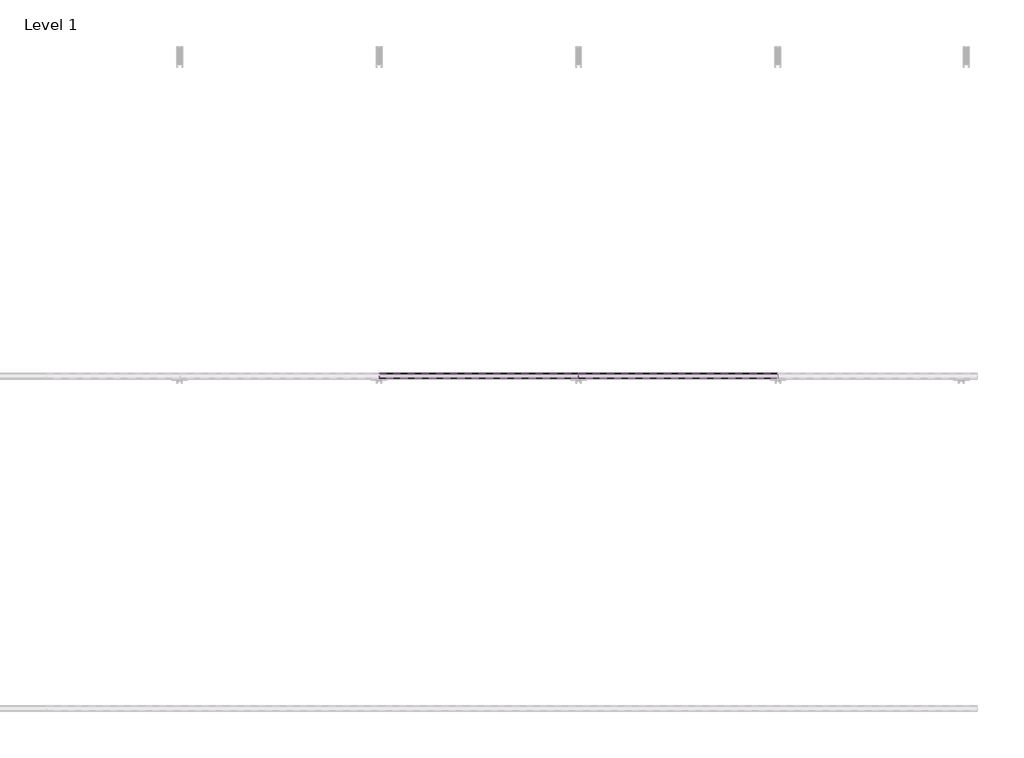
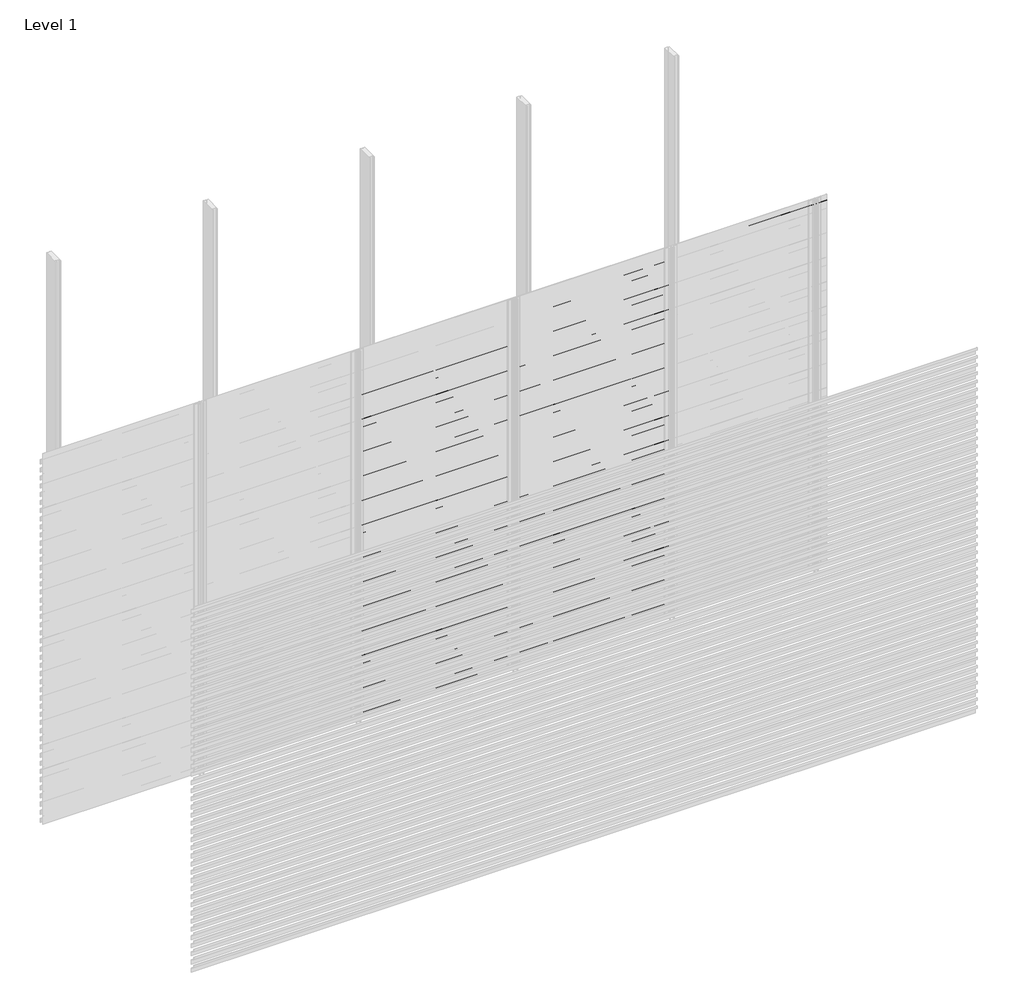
# One storey, part 5 of 33: 88 proxies.
"""IFC4 building model written with IfcOpenShell, lengths in millimetres."""

import ifcopenshell
import ifcopenshell.guid

model = None  # the IFC model being written
_history = None  # IfcOwnerHistory: only IFC2X3 demands one
_inside = {}  # id of a spatial element -> (the spatial element, [elements in it])
_under = {}  # id of a project, library or spatial element -> (it, [spatial elements below it])
_declared = {}  # id of a project -> (the project, [libraries it declares])
_typed = {}  # id of a type object -> (the type object, [elements of that type])
_made_of = {}  # id of a material, layer set ... -> (it, [elements and type objects made of it])


def new_model(schema):
    """Start an empty IFC model of exactly this schema.

    Asked for "IFC4X3", IfcOpenShell would pick the latest addendum, in which some entities
    have other attributes; the version numbers below select the first issue.
    IFC2X3 requires an IfcOwnerHistory on every rooted entity: one is made here for all.
    """
    global model, _history
    if schema == "IFC4X3":
        model = ifcopenshell.file(schema_version=(4, 3, 0, 0))
    else:
        model = ifcopenshell.file(schema=schema)
    _inside.clear()
    _under.clear()
    _declared.clear()
    _typed.clear()
    _made_of.clear()
    _history = None
    if model.schema == "IFC2X3":
        org = make("IfcOrganization", Name="unknown")
        user = make(
            "IfcPersonAndOrganization",
            ThePerson=make("IfcPerson", FamilyName="unknown"),
            TheOrganization=org,
        )
        app = make(
            "IfcApplication",
            ApplicationDeveloper=org,
            Version="unknown",
            ApplicationFullName="unknown",
            ApplicationIdentifier="unknown",
        )
        _history = make(
            "IfcOwnerHistory",
            OwningUser=user,
            OwningApplication=app,
            ChangeAction="ADDED",
            CreationDate=0,
        )
    return model


def make(cls, **values):
    """One entity of the class cls with the attributes given. An attribute that is None is left unset."""
    return model.create_entity(
        cls, **{name: value for name, value in values.items() if value is not None}
    )


def rooted(cls, **values):
    """An entity with a GlobalId (a new one), such as an element, a storey or a relation."""
    return make(cls, GlobalId=ifcopenshell.guid.new(), OwnerHistory=_history, **values)


def si_unit(unit_type, name, prefix=None):
    """IfcSIUnit, for example si_unit("LENGTHUNIT", "METRE", prefix="MILLI")."""
    return make("IfcSIUnit", UnitType=unit_type, Prefix=prefix, Name=name)


def assignment(units):
    """IfcUnitAssignment: the units of a project."""
    return None if units is None else make("IfcUnitAssignment", Units=units)


def point(xyz):
    """IfcCartesianPoint."""
    return None if xyz is None else make("IfcCartesianPoint", Coordinates=xyz)


def direction(xyz):
    """IfcDirection."""
    return None if xyz is None else make("IfcDirection", DirectionRatios=xyz)


def frame(location, z_axis=None, x_axis=None):
    """IfcAxis2Placement3D, a coordinate frame: its origin and axes. An axis left out is left unset."""
    return make(
        "IfcAxis2Placement3D",
        Location=point(location),
        Axis=direction(z_axis),
        RefDirection=direction(x_axis),
    )


def origin():
    """The frame at (0, 0, 0) with its axes left unset."""
    return frame((0.0, 0.0, 0.0))


def place(relative_to, where):
    """IfcLocalPlacement: puts the frame where relative to a parent placement (None: the world)."""
    return make(
        "IfcLocalPlacement", PlacementRelTo=relative_to, RelativePlacement=where
    )


def context(
    kind, dimensions, precision=None, world=None, true_north=None, identifier=None
):
    """IfcGeometricRepresentationContext, for example the 3D "Model" context."""
    return make(
        "IfcGeometricRepresentationContext",
        ContextIdentifier=identifier,
        ContextType=kind,
        CoordinateSpaceDimension=dimensions,
        Precision=precision,
        WorldCoordinateSystem=world,
        TrueNorth=true_north,
    )


def project(units=None, contexts=None):
    """IfcProject with its units and contexts."""
    return rooted(
        "IfcProject",
        Name="project",
        RepresentationContexts=contexts,
        UnitsInContext=assignment(units),
    )


def spatial(cls, under=None, at=None, **own):
    """A site, building, storey or space (cls), placed at a placement, below another one or the project."""
    s = rooted(cls, ObjectPlacement=at, **own)
    if under is not None:
        _under.setdefault(under.id(), (under, []))[1].append(s)
    return s


def polyline(points):
    """IfcPolyline through the points."""
    return make("IfcPolyline", Points=[point(p) for p in points])


def outline(outer, holes=None, kind="AREA"):
    """IfcArbitraryClosedProfileDef: a profile drawn as a closed curve; with holes, ...WithVoids."""
    if holes is None:
        return make("IfcArbitraryClosedProfileDef", ProfileType=kind, OuterCurve=outer)
    return make(
        "IfcArbitraryProfileDefWithVoids",
        ProfileType=kind,
        OuterCurve=outer,
        InnerCurves=holes,
    )


def extrude(swept, where, along, depth):
    """IfcExtrudedAreaSolid: the profile swept, set in the frame where, extruded along a direction by depth."""
    return make(
        "IfcExtrudedAreaSolid",
        SweptArea=swept,
        Position=where,
        ExtrudedDirection=direction(along),
        Depth=depth,
    )


def shape(context_of_items, identifier, shape_type, items):
    """IfcShapeRepresentation: the items that make up one representation, for example the "Body"."""
    return make(
        "IfcShapeRepresentation",
        ContextOfItems=context_of_items,
        RepresentationIdentifier=identifier,
        RepresentationType=shape_type,
        Items=items,
    )


def made_of(thing, what):
    """Note that an element or type object is made of a material, layer set ...; save() writes the relation."""
    if what is not None:
        _made_of.setdefault(what.id(), (what, []))[1].append(thing)
    return thing


def element(
    cls,
    number,
    at=None,
    inside=None,
    cuts=None,
    type_object=None,
    material=None,
    context=None,
    identifier="Body",
    shape_type=None,
    held_by="IfcProductDefinitionShape",
    body=None,
    shapes=None,
    **own,
):
    """One element of the class cls, such as IfcWall. Its Tag is "e" and its number.

    at: its placement. inside: the storey or other place that contains it. cuts: it is an
    opening in that element (IfcRelVoidsElement). A single representation is given by context,
    identifier, shape_type and body (its items); several are given by shapes. held_by: the class
    of the entity that holds the representations. save() writes the other relations.
    """
    e = rooted(cls, Tag="e%d" % number, ObjectPlacement=at, **own)
    if body is not None:
        shapes = [shape(context, identifier, shape_type, body)]
    if shapes is not None:
        e.Representation = make(held_by, Representations=shapes)
    if inside is not None:
        _inside.setdefault(inside.id(), (inside, []))[1].append(e)
    if cuts is not None:
        rooted(
            "IfcRelVoidsElement", RelatingBuildingElement=cuts, RelatedOpeningElement=e
        )
    if type_object is not None:
        _typed.setdefault(type_object.id(), (type_object, []))[1].append(e)
    return made_of(e, material)


def aggregate(whole, parts):
    """IfcRelAggregates: a whole, such as a stair, and the parts it consists of."""
    return rooted("IfcRelAggregates", RelatingObject=whole, RelatedObjects=parts)


def save(model, path):
    """Write the relations noted so far, then the file.

    IfcRelAggregates (storeys below a building ...), IfcRelContainedInSpatialStructure (elements
    in a storey), IfcRelDefinesByType, IfcRelAssociatesMaterial and IfcRelDeclares: one each for
    every whole, place, type object, material and project.
    """
    for whole, parts in _under.values():
        aggregate(whole, parts)
    for where, things in _inside.values():
        rooted(
            "IfcRelContainedInSpatialStructure",
            RelatedElements=things,
            RelatingStructure=where,
        )
    for kind, things in _typed.values():
        rooted("IfcRelDefinesByType", RelatedObjects=things, RelatingType=kind)
    for what, things in _made_of.values():
        rooted("IfcRelAssociatesMaterial", RelatedObjects=things, RelatingMaterial=what)
    for by, libraries in _declared.values():
        rooted("IfcRelDeclares", RelatingContext=by, RelatedDefinitions=libraries)
    model.write(path)


model = new_model("IFC4")

# Units and contexts
model_context = context("Model", 3, world=origin())
ifc_project = project(units=[si_unit("LENGTHUNIT", "METRE", prefix="MILLI")], contexts=[model_context])

# Site, building, storey
site = spatial("IfcSite", under=ifc_project)
building = spatial("IfcBuilding", under=site)
storey = spatial("IfcBuildingStorey", under=building, Name="Level 1", Elevation=0.0)

# Proxies
placement = place(None, origin())
element("IfcBuildingElementProxy", 1, Name="Wall Sweeps", at=placement, inside=storey, context=model_context, shape_type="SweptSolid", body=[
    extrude(outline(polyline([(-53967.0, 2732.0), (-53967.0, 2699.0), (-53968.25, 2699.7216933), (-53968.25, 2731.2872415), (-53998.0, 2752.0588647), (-53998.0, 2772.0), (-53996.75, 2772.0), (-53996.75, 2752.7716232), (-53967.0, 2732.0)])), frame((2400.0, 0.0, 0.0), z_axis=(1.0, 0.0, 0.0), x_axis=(0.0, 1.0, 0.0)), (0.0, 0.0, 1.0), 1200.0),
])
element("IfcBuildingElementProxy", 2, Name="Wall Sweeps", at=placement, inside=storey, context=model_context, shape_type="SweptSolid", body=[
    extrude(outline(polyline([(-53967.0, 2666.0), (-53967.0, 2633.0), (-53968.25, 2633.7216933), (-53968.25, 2665.2872415), (-53998.0, 2686.0588647), (-53998.0, 2706.0), (-53996.75, 2706.0), (-53996.75, 2686.7716232), (-53967.0, 2666.0)])), frame((2400.0, 0.0, 0.0), z_axis=(1.0, 0.0, 0.0), x_axis=(0.0, 1.0, 0.0)), (0.0, 0.0, 1.0), 1200.0),
])
element("IfcBuildingElementProxy", 3, Name="Wall Sweeps", at=placement, inside=storey, context=model_context, shape_type="SweptSolid", body=[
    extrude(outline(polyline([(-53967.0, 2600.0), (-53967.0, 2567.0), (-53968.25, 2567.7216933), (-53968.25, 2599.2872415), (-53998.0, 2620.0588647), (-53998.0, 2640.0), (-53996.75, 2640.0), (-53996.75, 2620.7716232), (-53967.0, 2600.0)])), frame((2400.0, 0.0, 0.0), z_axis=(1.0, 0.0, 0.0), x_axis=(0.0, 1.0, 0.0)), (0.0, 0.0, 1.0), 1200.0),
])
element("IfcBuildingElementProxy", 4, Name="Wall Sweeps", at=placement, inside=storey, context=model_context, shape_type="SweptSolid", body=[
    extrude(outline(polyline([(-53967.0, 2534.0), (-53967.0, 2501.0), (-53968.25, 2501.7216933), (-53968.25, 2533.2872415), (-53998.0, 2554.0588647), (-53998.0, 2574.0), (-53996.75, 2574.0), (-53996.75, 2554.7716232), (-53967.0, 2534.0)])), frame((2400.0, 0.0, 0.0), z_axis=(1.0, 0.0, 0.0), x_axis=(0.0, 1.0, 0.0)), (0.0, 0.0, 1.0), 1200.0),
])
element("IfcBuildingElementProxy", 5, Name="Wall Sweeps", at=placement, inside=storey, context=model_context, shape_type="SweptSolid", body=[
    extrude(outline(polyline([(-53967.0, 2468.0), (-53967.0, 2435.0), (-53968.25, 2435.7216933), (-53968.25, 2467.2872415), (-53998.0, 2488.0588647), (-53998.0, 2508.0), (-53996.75, 2508.0), (-53996.75, 2488.7716232), (-53967.0, 2468.0)])), frame((2400.0, 0.0, 0.0), z_axis=(1.0, 0.0, 0.0), x_axis=(0.0, 1.0, 0.0)), (0.0, 0.0, 1.0), 1200.0),
])
element("IfcBuildingElementProxy", 6, Name="Wall Sweeps", at=placement, inside=storey, context=model_context, shape_type="SweptSolid", body=[
    extrude(outline(polyline([(-53967.0, 2402.0), (-53967.0, 2369.0), (-53968.25, 2369.7216933), (-53968.25, 2401.2872415), (-53998.0, 2422.0588647), (-53998.0, 2442.0), (-53996.75, 2442.0), (-53996.75, 2422.7716232), (-53967.0, 2402.0)])), frame((2400.0, 0.0, 0.0), z_axis=(1.0, 0.0, 0.0), x_axis=(0.0, 1.0, 0.0)), (0.0, 0.0, 1.0), 1200.0),
])
element("IfcBuildingElementProxy", 7, Name="Wall Sweeps", at=placement, inside=storey, context=model_context, shape_type="SweptSolid", body=[
    extrude(outline(polyline([(-53967.0, 2336.0), (-53967.0, 2303.0), (-53968.25, 2303.7216933), (-53968.25, 2335.2872415), (-53998.0, 2356.0588647), (-53998.0, 2376.0), (-53996.75, 2376.0), (-53996.75, 2356.7716232), (-53967.0, 2336.0)])), frame((2400.0, 0.0, 0.0), z_axis=(1.0, 0.0, 0.0), x_axis=(0.0, 1.0, 0.0)), (0.0, 0.0, 1.0), 1200.0),
])
element("IfcBuildingElementProxy", 8, Name="Wall Sweeps", at=placement, inside=storey, context=model_context, shape_type="SweptSolid", body=[
    extrude(outline(polyline([(-53967.0, 2270.0), (-53967.0, 2237.0), (-53968.25, 2237.7216933), (-53968.25, 2269.2872415), (-53998.0, 2290.0588647), (-53998.0, 2310.0), (-53996.75, 2310.0), (-53996.75, 2290.7716232), (-53967.0, 2270.0)])), frame((2400.0, 0.0, 0.0), z_axis=(1.0, 0.0, 0.0), x_axis=(0.0, 1.0, 0.0)), (0.0, 0.0, 1.0), 1200.0),
])
element("IfcBuildingElementProxy", 9, Name="Wall Sweeps", at=placement, inside=storey, context=model_context, shape_type="SweptSolid", body=[
    extrude(outline(polyline([(-53967.0, 2204.0), (-53967.0, 2171.0), (-53968.25, 2171.7216933), (-53968.25, 2203.2872415), (-53998.0, 2224.0588647), (-53998.0, 2244.0), (-53996.75, 2244.0), (-53996.75, 2224.7716232), (-53967.0, 2204.0)])), frame((2400.0, 0.0, 0.0), z_axis=(1.0, 0.0, 0.0), x_axis=(0.0, 1.0, 0.0)), (0.0, 0.0, 1.0), 1200.0),
])
element("IfcBuildingElementProxy", 10, Name="Wall Sweeps", at=placement, inside=storey, context=model_context, shape_type="SweptSolid", body=[
    extrude(outline(polyline([(-53967.0, 2138.0), (-53967.0, 2105.0), (-53968.25, 2105.7216933), (-53968.25, 2137.2872415), (-53998.0, 2158.0588647), (-53998.0, 2178.0), (-53996.75, 2178.0), (-53996.75, 2158.7716232), (-53967.0, 2138.0)])), frame((2400.0, 0.0, 0.0), z_axis=(1.0, 0.0, 0.0), x_axis=(0.0, 1.0, 0.0)), (0.0, 0.0, 1.0), 1200.0),
])
element("IfcBuildingElementProxy", 11, Name="Wall Sweeps", at=placement, inside=storey, context=model_context, shape_type="SweptSolid", body=[
    extrude(outline(polyline([(-53967.0, 2072.0), (-53967.0, 2039.0), (-53968.25, 2039.7216933), (-53968.25, 2071.2872415), (-53998.0, 2092.0588647), (-53998.0, 2112.0), (-53996.75, 2112.0), (-53996.75, 2092.7716232), (-53967.0, 2072.0)])), frame((2400.0, 0.0, 0.0), z_axis=(1.0, 0.0, 0.0), x_axis=(0.0, 1.0, 0.0)), (0.0, 0.0, 1.0), 1200.0),
])
element("IfcBuildingElementProxy", 12, Name="Wall Sweeps", at=placement, inside=storey, context=model_context, shape_type="SweptSolid", body=[
    extrude(outline(polyline([(-53967.0, 2006.0), (-53967.0, 1973.0), (-53968.25, 1973.7216933), (-53968.25, 2005.2872415), (-53998.0, 2026.0588647), (-53998.0, 2046.0), (-53996.75, 2046.0), (-53996.75, 2026.7716232), (-53967.0, 2006.0)])), frame((2400.0, 0.0, 0.0), z_axis=(1.0, 0.0, 0.0), x_axis=(0.0, 1.0, 0.0)), (0.0, 0.0, 1.0), 1200.0),
])
element("IfcBuildingElementProxy", 13, Name="Wall Sweeps", at=placement, inside=storey, context=model_context, shape_type="SweptSolid", body=[
    extrude(outline(polyline([(-53967.0, 1940.0), (-53967.0, 1907.0), (-53968.25, 1907.7216933), (-53968.25, 1939.2872415), (-53998.0, 1960.0588647), (-53998.0, 1980.0), (-53996.75, 1980.0), (-53996.75, 1960.7716232), (-53967.0, 1940.0)])), frame((2400.0, 0.0, 0.0), z_axis=(1.0, 0.0, 0.0), x_axis=(0.0, 1.0, 0.0)), (0.0, 0.0, 1.0), 1200.0),
])
element("IfcBuildingElementProxy", 14, Name="Wall Sweeps", at=placement, inside=storey, context=model_context, shape_type="SweptSolid", body=[
    extrude(outline(polyline([(-53967.0, 1874.0), (-53967.0, 1841.0), (-53968.25, 1841.7216933), (-53968.25, 1873.2872415), (-53998.0, 1894.0588647), (-53998.0, 1914.0), (-53996.75, 1914.0), (-53996.75, 1894.7716232), (-53967.0, 1874.0)])), frame((2400.0, 0.0, 0.0), z_axis=(1.0, 0.0, 0.0), x_axis=(0.0, 1.0, 0.0)), (0.0, 0.0, 1.0), 1200.0),
])
element("IfcBuildingElementProxy", 15, Name="Wall Sweeps", at=placement, inside=storey, context=model_context, shape_type="SweptSolid", body=[
    extrude(outline(polyline([(-53967.0, 1808.0), (-53967.0, 1775.0), (-53968.25, 1775.7216933), (-53968.25, 1807.2872415), (-53998.0, 1828.0588647), (-53998.0, 1848.0), (-53996.75, 1848.0), (-53996.75, 1828.7716232), (-53967.0, 1808.0)])), frame((2400.0, 0.0, 0.0), z_axis=(1.0, 0.0, 0.0), x_axis=(0.0, 1.0, 0.0)), (0.0, 0.0, 1.0), 1200.0),
])
element("IfcBuildingElementProxy", 16, Name="Wall Sweeps", at=placement, inside=storey, context=model_context, shape_type="SweptSolid", body=[
    extrude(outline(polyline([(-53967.0, 1742.0), (-53967.0, 1709.0), (-53968.25, 1709.7216933), (-53968.25, 1741.2872415), (-53998.0, 1762.0588647), (-53998.0, 1782.0), (-53996.75, 1782.0), (-53996.75, 1762.7716232), (-53967.0, 1742.0)])), frame((2400.0, 0.0, 0.0), z_axis=(1.0, 0.0, 0.0), x_axis=(0.0, 1.0, 0.0)), (0.0, 0.0, 1.0), 1200.0),
])
element("IfcBuildingElementProxy", 17, Name="Wall Sweeps", at=placement, inside=storey, context=model_context, shape_type="SweptSolid", body=[
    extrude(outline(polyline([(-53967.0, 1676.0), (-53967.0, 1643.0), (-53968.25, 1643.7216933), (-53968.25, 1675.2872415), (-53998.0, 1696.0588647), (-53998.0, 1716.0), (-53996.75, 1716.0), (-53996.75, 1696.7716232), (-53967.0, 1676.0)])), frame((2400.0, 0.0, 0.0), z_axis=(1.0, 0.0, 0.0), x_axis=(0.0, 1.0, 0.0)), (0.0, 0.0, 1.0), 1200.0),
])
element("IfcBuildingElementProxy", 18, Name="Wall Sweeps", at=placement, inside=storey, context=model_context, shape_type="SweptSolid", body=[
    extrude(outline(polyline([(-53967.0, 1610.0), (-53967.0, 1577.0), (-53968.25, 1577.7216933), (-53968.25, 1609.2872415), (-53998.0, 1630.0588647), (-53998.0, 1650.0), (-53996.75, 1650.0), (-53996.75, 1630.7716232), (-53967.0, 1610.0)])), frame((2400.0, 0.0, 0.0), z_axis=(1.0, 0.0, 0.0), x_axis=(0.0, 1.0, 0.0)), (0.0, 0.0, 1.0), 1200.0),
])
element("IfcBuildingElementProxy", 19, Name="Wall Sweeps", at=placement, inside=storey, context=model_context, shape_type="SweptSolid", body=[
    extrude(outline(polyline([(-53967.0, 1544.0), (-53967.0, 1511.0), (-53968.25, 1511.7216933), (-53968.25, 1543.2872415), (-53998.0, 1564.0588647), (-53998.0, 1584.0), (-53996.75, 1584.0), (-53996.75, 1564.7716232), (-53967.0, 1544.0)])), frame((2400.0, 0.0, 0.0), z_axis=(1.0, 0.0, 0.0), x_axis=(0.0, 1.0, 0.0)), (0.0, 0.0, 1.0), 1200.0),
])
element("IfcBuildingElementProxy", 20, Name="Wall Sweeps", at=placement, inside=storey, context=model_context, shape_type="SweptSolid", body=[
    extrude(outline(polyline([(-53967.0, 1478.0), (-53967.0, 1445.0), (-53968.25, 1445.7216933), (-53968.25, 1477.2872415), (-53998.0, 1498.0588647), (-53998.0, 1518.0), (-53996.75, 1518.0), (-53996.75, 1498.7716232), (-53967.0, 1478.0)])), frame((2400.0, 0.0, 0.0), z_axis=(1.0, 0.0, 0.0), x_axis=(0.0, 1.0, 0.0)), (0.0, 0.0, 1.0), 1200.0),
])
element("IfcBuildingElementProxy", 21, Name="Wall Sweeps", at=placement, inside=storey, context=model_context, shape_type="SweptSolid", body=[
    extrude(outline(polyline([(-53967.0, 1412.0), (-53967.0, 1379.0), (-53968.25, 1379.7216933), (-53968.25, 1411.2872415), (-53998.0, 1432.0588647), (-53998.0, 1452.0), (-53996.75, 1452.0), (-53996.75, 1432.7716232), (-53967.0, 1412.0)])), frame((2400.0, 0.0, 0.0), z_axis=(1.0, 0.0, 0.0), x_axis=(0.0, 1.0, 0.0)), (0.0, 0.0, 1.0), 1200.0),
])
element("IfcBuildingElementProxy", 22, Name="Wall Sweeps", at=placement, inside=storey, context=model_context, shape_type="SweptSolid", body=[
    extrude(outline(polyline([(-53967.0, 1346.0), (-53967.0, 1313.0), (-53968.25, 1313.7216933), (-53968.25, 1345.2872415), (-53998.0, 1366.0588647), (-53998.0, 1386.0), (-53996.75, 1386.0), (-53996.75, 1366.7716232), (-53967.0, 1346.0)])), frame((2400.0, 0.0, 0.0), z_axis=(1.0, 0.0, 0.0), x_axis=(0.0, 1.0, 0.0)), (0.0, 0.0, 1.0), 1200.0),
])
element("IfcBuildingElementProxy", 23, Name="Wall Sweeps", at=placement, inside=storey, context=model_context, shape_type="SweptSolid", body=[
    extrude(outline(polyline([(-53967.0, 1280.0), (-53967.0, 1247.0), (-53968.25, 1247.7216933), (-53968.25, 1279.2872415), (-53998.0, 1300.0588647), (-53998.0, 1320.0), (-53996.75, 1320.0), (-53996.75, 1300.7716232), (-53967.0, 1280.0)])), frame((2400.0, 0.0, 0.0), z_axis=(1.0, 0.0, 0.0), x_axis=(0.0, 1.0, 0.0)), (0.0, 0.0, 1.0), 1200.0),
])
element("IfcBuildingElementProxy", 24, Name="Wall Sweeps", at=placement, inside=storey, context=model_context, shape_type="SweptSolid", body=[
    extrude(outline(polyline([(-53967.0, 1214.0), (-53967.0, 1181.0), (-53968.25, 1181.7216933), (-53968.25, 1213.2872415), (-53998.0, 1234.0588647), (-53998.0, 1254.0), (-53996.75, 1254.0), (-53996.75, 1234.7716232), (-53967.0, 1214.0)])), frame((2400.0, 0.0, 0.0), z_axis=(1.0, 0.0, 0.0), x_axis=(0.0, 1.0, 0.0)), (0.0, 0.0, 1.0), 1200.0),
])
element("IfcBuildingElementProxy", 25, Name="Wall Sweeps", at=placement, inside=storey, context=model_context, shape_type="SweptSolid", body=[
    extrude(outline(polyline([(-53967.0, 1148.0), (-53967.0, 1115.0), (-53968.25, 1115.7216933), (-53968.25, 1147.2872415), (-53998.0, 1168.0588647), (-53998.0, 1188.0), (-53996.75, 1188.0), (-53996.75, 1168.7716232), (-53967.0, 1148.0)])), frame((2400.0, 0.0, 0.0), z_axis=(1.0, 0.0, 0.0), x_axis=(0.0, 1.0, 0.0)), (0.0, 0.0, 1.0), 1200.0),
])
element("IfcBuildingElementProxy", 26, Name="Wall Sweeps", at=placement, inside=storey, context=model_context, shape_type="SweptSolid", body=[
    extrude(outline(polyline([(-53967.0, 1082.0), (-53967.0, 1049.0), (-53968.25, 1049.7216933), (-53968.25, 1081.2872415), (-53998.0, 1102.0588647), (-53998.0, 1122.0), (-53996.75, 1122.0), (-53996.75, 1102.7716232), (-53967.0, 1082.0)])), frame((2400.0, 0.0, 0.0), z_axis=(1.0, 0.0, 0.0), x_axis=(0.0, 1.0, 0.0)), (0.0, 0.0, 1.0), 1200.0),
])
element("IfcBuildingElementProxy", 27, Name="Wall Sweeps", at=placement, inside=storey, context=model_context, shape_type="SweptSolid", body=[
    extrude(outline(polyline([(-53967.0, 1016.0), (-53967.0, 983.0), (-53968.25, 983.7216933), (-53968.25, 1015.2872415), (-53998.0, 1036.0588647), (-53998.0, 1056.0), (-53996.75, 1056.0), (-53996.75, 1036.7716232), (-53967.0, 1016.0)])), frame((2400.0, 0.0, 0.0), z_axis=(1.0, 0.0, 0.0), x_axis=(0.0, 1.0, 0.0)), (0.0, 0.0, 1.0), 1200.0),
])
element("IfcBuildingElementProxy", 28, Name="Wall Sweeps", at=placement, inside=storey, context=model_context, shape_type="SweptSolid", body=[
    extrude(outline(polyline([(-53967.0, 950.0), (-53967.0, 917.0), (-53968.25, 917.7216933), (-53968.25, 949.2872415), (-53998.0, 970.0588647), (-53998.0, 990.0), (-53996.75, 990.0), (-53996.75, 970.7716232), (-53967.0, 950.0)])), frame((2400.0, 0.0, 0.0), z_axis=(1.0, 0.0, 0.0), x_axis=(0.0, 1.0, 0.0)), (0.0, 0.0, 1.0), 1200.0),
])
element("IfcBuildingElementProxy", 29, Name="Wall Sweeps", at=placement, inside=storey, context=model_context, shape_type="SweptSolid", body=[
    extrude(outline(polyline([(-53967.0, 884.0), (-53967.0, 851.0), (-53968.25, 851.7216933), (-53968.25, 883.2872415), (-53998.0, 904.0588647), (-53998.0, 924.0), (-53996.75, 924.0), (-53996.75, 904.7716232), (-53967.0, 884.0)])), frame((2400.0, 0.0, 0.0), z_axis=(1.0, 0.0, 0.0), x_axis=(0.0, 1.0, 0.0)), (0.0, 0.0, 1.0), 1200.0),
])
element("IfcBuildingElementProxy", 30, Name="Wall Sweeps", at=placement, inside=storey, context=model_context, shape_type="SweptSolid", body=[
    extrude(outline(polyline([(-53967.0, 818.0), (-53967.0, 785.0), (-53968.25, 785.7216933), (-53968.25, 817.2872415), (-53998.0, 838.0588647), (-53998.0, 858.0), (-53996.75, 858.0), (-53996.75, 838.7716232), (-53967.0, 818.0)])), frame((2400.0, 0.0, 0.0), z_axis=(1.0, 0.0, 0.0), x_axis=(0.0, 1.0, 0.0)), (0.0, 0.0, 1.0), 1200.0),
])
element("IfcBuildingElementProxy", 31, Name="Wall Sweeps", at=placement, inside=storey, context=model_context, shape_type="SweptSolid", body=[
    extrude(outline(polyline([(-53967.0, 752.0), (-53967.0, 719.0), (-53968.25, 719.7216933), (-53968.25, 751.2872415), (-53998.0, 772.0588647), (-53998.0, 792.0), (-53996.75, 792.0), (-53996.75, 772.7716232), (-53967.0, 752.0)])), frame((2400.0, 0.0, 0.0), z_axis=(1.0, 0.0, 0.0), x_axis=(0.0, 1.0, 0.0)), (0.0, 0.0, 1.0), 1200.0),
])
element("IfcBuildingElementProxy", 32, Name="Wall Sweeps", at=placement, inside=storey, context=model_context, shape_type="SweptSolid", body=[
    extrude(outline(polyline([(-53967.0, 686.0), (-53967.0, 653.0), (-53968.25, 653.7216933), (-53968.25, 685.2872415), (-53998.0, 706.0588647), (-53998.0, 726.0), (-53996.75, 726.0), (-53996.75, 706.7716232), (-53967.0, 686.0)])), frame((2400.0, 0.0, 0.0), z_axis=(1.0, 0.0, 0.0), x_axis=(0.0, 1.0, 0.0)), (0.0, 0.0, 1.0), 1200.0),
])
element("IfcBuildingElementProxy", 33, Name="Wall Sweeps", at=placement, inside=storey, context=model_context, shape_type="SweptSolid", body=[
    extrude(outline(polyline([(-53967.0, 620.0), (-53967.0, 587.0), (-53968.25, 587.7216933), (-53968.25, 619.2872415), (-53998.0, 640.0588647), (-53998.0, 660.0), (-53996.75, 660.0), (-53996.75, 640.7716232), (-53967.0, 620.0)])), frame((2400.0, 0.0, 0.0), z_axis=(1.0, 0.0, 0.0), x_axis=(0.0, 1.0, 0.0)), (0.0, 0.0, 1.0), 1200.0),
])
element("IfcBuildingElementProxy", 34, Name="Wall Sweeps", at=placement, inside=storey, context=model_context, shape_type="SweptSolid", body=[
    extrude(outline(polyline([(-53967.0, 554.0), (-53967.0, 521.0), (-53968.25, 521.7216933), (-53968.25, 553.2872415), (-53998.0, 574.0588647), (-53998.0, 594.0), (-53996.75, 594.0), (-53996.75, 574.7716232), (-53967.0, 554.0)])), frame((2400.0, 0.0, 0.0), z_axis=(1.0, 0.0, 0.0), x_axis=(0.0, 1.0, 0.0)), (0.0, 0.0, 1.0), 1200.0),
])
element("IfcBuildingElementProxy", 35, Name="Wall Sweeps", at=placement, inside=storey, context=model_context, shape_type="SweptSolid", body=[
    extrude(outline(polyline([(-53967.0, 488.0), (-53967.0, 455.0), (-53968.25, 455.7216933), (-53968.25, 487.2872415), (-53998.0, 508.0588647), (-53998.0, 528.0), (-53996.75, 528.0), (-53996.75, 508.7716232), (-53967.0, 488.0)])), frame((2400.0, 0.0, 0.0), z_axis=(1.0, 0.0, 0.0), x_axis=(0.0, 1.0, 0.0)), (0.0, 0.0, 1.0), 1200.0),
])
element("IfcBuildingElementProxy", 36, Name="Wall Sweeps", at=placement, inside=storey, context=model_context, shape_type="SweptSolid", body=[
    extrude(outline(polyline([(-53967.0, 422.0), (-53967.0, 389.0), (-53968.25, 389.7216933), (-53968.25, 421.2872415), (-53998.0, 442.0588647), (-53998.0, 462.0), (-53996.75, 462.0), (-53996.75, 442.7716232), (-53967.0, 422.0)])), frame((2400.0, 0.0, 0.0), z_axis=(1.0, 0.0, 0.0), x_axis=(0.0, 1.0, 0.0)), (0.0, 0.0, 1.0), 1200.0),
])
element("IfcBuildingElementProxy", 37, Name="Wall Sweeps", at=placement, inside=storey, context=model_context, shape_type="SweptSolid", body=[
    extrude(outline(polyline([(-53967.0, 356.0), (-53967.0, 323.0), (-53968.25, 323.7216933), (-53968.25, 355.2872415), (-53998.0, 376.0588647), (-53998.0, 396.0), (-53996.75, 396.0), (-53996.75, 376.7716232), (-53967.0, 356.0)])), frame((2400.0, 0.0, 0.0), z_axis=(1.0, 0.0, 0.0), x_axis=(0.0, 1.0, 0.0)), (0.0, 0.0, 1.0), 1200.0),
])
element("IfcBuildingElementProxy", 38, Name="Wall Sweeps", at=placement, inside=storey, context=model_context, shape_type="SweptSolid", body=[
    extrude(outline(polyline([(-53967.0, 290.0), (-53967.0, 257.0), (-53968.25, 257.7216933), (-53968.25, 289.2872415), (-53998.0, 310.0588647), (-53998.0, 330.0), (-53996.75, 330.0), (-53996.75, 310.7716232), (-53967.0, 290.0)])), frame((2400.0, 0.0, 0.0), z_axis=(1.0, 0.0, 0.0), x_axis=(0.0, 1.0, 0.0)), (0.0, 0.0, 1.0), 1200.0),
])
element("IfcBuildingElementProxy", 39, Name="Wall Sweeps", at=placement, inside=storey, context=model_context, shape_type="SweptSolid", body=[
    extrude(outline(polyline([(-53967.0, 224.0), (-53967.0, 191.0), (-53968.25, 191.7216933), (-53968.25, 223.2872415), (-53998.0, 244.0588647), (-53998.0, 264.0), (-53996.75, 264.0), (-53996.75, 244.7716232), (-53967.0, 224.0)])), frame((2400.0, 0.0, 0.0), z_axis=(1.0, 0.0, 0.0), x_axis=(0.0, 1.0, 0.0)), (0.0, 0.0, 1.0), 1200.0),
])
element("IfcBuildingElementProxy", 40, Name="Wall Sweeps", at=placement, inside=storey, context=model_context, shape_type="SweptSolid", body=[
    extrude(outline(polyline([(-53967.0, 158.0), (-53967.0, 125.0), (-53968.25, 125.7216933), (-53968.25, 157.2872415), (-53998.0, 178.0588647), (-53998.0, 198.0), (-53996.75, 198.0), (-53996.75, 178.7716232), (-53967.0, 158.0)])), frame((2400.0, 0.0, 0.0), z_axis=(1.0, 0.0, 0.0), x_axis=(0.0, 1.0, 0.0)), (0.0, 0.0, 1.0), 1200.0),
])
element("IfcBuildingElementProxy", 41, Name="Wall Sweeps", at=placement, inside=storey, context=model_context, shape_type="SweptSolid", body=[
    extrude(outline(polyline([(-53967.0, 92.0), (-53967.0, 59.0), (-53968.25, 59.7216933), (-53968.25, 91.2872415), (-53998.0, 112.0588647), (-53998.0, 132.0), (-53996.75, 132.0), (-53996.75, 112.7716232), (-53967.0, 92.0)])), frame((2400.0, 0.0, 0.0), z_axis=(1.0, 0.0, 0.0), x_axis=(0.0, 1.0, 0.0)), (0.0, 0.0, 1.0), 1200.0),
])
element("IfcBuildingElementProxy", 42, Name="Wall Sweeps", at=placement, inside=storey, context=model_context, shape_type="SweptSolid", body=[
    extrude(outline(polyline([(-53967.0, 26.0), (-53967.0, -7.0), (-53968.25, -6.2783067), (-53968.25, 25.2872415), (-53998.0, 46.0588647), (-53998.0, 66.0), (-53996.75, 66.0), (-53996.75, 46.7716232), (-53967.0, 26.0)])), frame((2400.0, 0.0, 0.0), z_axis=(1.0, 0.0, 0.0), x_axis=(0.0, 1.0, 0.0)), (0.0, 0.0, 1.0), 1200.0),
])
element("IfcBuildingElementProxy", 43, Name="Wall Sweeps", at=placement, inside=storey, context=model_context, shape_type="SweptSolid", body=[
    extrude(outline(polyline([(-53967.0, 2930.0), (-53967.0, 2897.0), (-53968.25, 2897.7216933), (-53968.25, 2929.2872415), (-53998.0, 2950.0588647), (-53998.0, 2970.0), (-53996.75, 2970.0), (-53996.75, 2950.7716232), (-53967.0, 2930.0)])), frame((3600.0, 0.0, 0.0), z_axis=(1.0, 0.0, 0.0), x_axis=(0.0, 1.0, 0.0)), (0.0, 0.0, 1.0), 1200.0),
])
element("IfcBuildingElementProxy", 44, Name="Wall Sweeps", at=placement, inside=storey, context=model_context, shape_type="SweptSolid", body=[
    extrude(outline(polyline([(-53967.0, 2864.0), (-53967.0, 2831.0), (-53968.25, 2831.7216933), (-53968.25, 2863.2872415), (-53998.0, 2884.0588647), (-53998.0, 2904.0), (-53996.75, 2904.0), (-53996.75, 2884.7716232), (-53967.0, 2864.0)])), frame((3600.0, 0.0, 0.0), z_axis=(1.0, 0.0, 0.0), x_axis=(0.0, 1.0, 0.0)), (0.0, 0.0, 1.0), 1200.0),
])
element("IfcBuildingElementProxy", 45, Name="Wall Sweeps", at=placement, inside=storey, context=model_context, shape_type="SweptSolid", body=[
    extrude(outline(polyline([(-53967.0, 2798.0), (-53967.0, 2765.0), (-53968.25, 2765.7216933), (-53968.25, 2797.2872415), (-53998.0, 2818.0588647), (-53998.0, 2838.0), (-53996.75, 2838.0), (-53996.75, 2818.7716232), (-53967.0, 2798.0)])), frame((3600.0, 0.0, 0.0), z_axis=(1.0, 0.0, 0.0), x_axis=(0.0, 1.0, 0.0)), (0.0, 0.0, 1.0), 1200.0),
])
element("IfcBuildingElementProxy", 46, Name="Wall Sweeps", at=placement, inside=storey, context=model_context, shape_type="SweptSolid", body=[
    extrude(outline(polyline([(-53967.0, 2732.0), (-53967.0, 2699.0), (-53968.25, 2699.7216933), (-53968.25, 2731.2872415), (-53998.0, 2752.0588647), (-53998.0, 2772.0), (-53996.75, 2772.0), (-53996.75, 2752.7716232), (-53967.0, 2732.0)])), frame((3600.0, 0.0, 0.0), z_axis=(1.0, 0.0, 0.0), x_axis=(0.0, 1.0, 0.0)), (0.0, 0.0, 1.0), 1200.0),
])
element("IfcBuildingElementProxy", 47, Name="Wall Sweeps", at=placement, inside=storey, context=model_context, shape_type="SweptSolid", body=[
    extrude(outline(polyline([(-53967.0, 2666.0), (-53967.0, 2633.0), (-53968.25, 2633.7216933), (-53968.25, 2665.2872415), (-53998.0, 2686.0588647), (-53998.0, 2706.0), (-53996.75, 2706.0), (-53996.75, 2686.7716232), (-53967.0, 2666.0)])), frame((3600.0, 0.0, 0.0), z_axis=(1.0, 0.0, 0.0), x_axis=(0.0, 1.0, 0.0)), (0.0, 0.0, 1.0), 1200.0),
])
element("IfcBuildingElementProxy", 48, Name="Wall Sweeps", at=placement, inside=storey, context=model_context, shape_type="SweptSolid", body=[
    extrude(outline(polyline([(-53967.0, 2600.0), (-53967.0, 2567.0), (-53968.25, 2567.7216933), (-53968.25, 2599.2872415), (-53998.0, 2620.0588647), (-53998.0, 2640.0), (-53996.75, 2640.0), (-53996.75, 2620.7716232), (-53967.0, 2600.0)])), frame((3600.0, 0.0, 0.0), z_axis=(1.0, 0.0, 0.0), x_axis=(0.0, 1.0, 0.0)), (0.0, 0.0, 1.0), 1200.0),
])
element("IfcBuildingElementProxy", 49, Name="Wall Sweeps", at=placement, inside=storey, context=model_context, shape_type="SweptSolid", body=[
    extrude(outline(polyline([(-53967.0, 2534.0), (-53967.0, 2501.0), (-53968.25, 2501.7216933), (-53968.25, 2533.2872415), (-53998.0, 2554.0588647), (-53998.0, 2574.0), (-53996.75, 2574.0), (-53996.75, 2554.7716232), (-53967.0, 2534.0)])), frame((3600.0, 0.0, 0.0), z_axis=(1.0, 0.0, 0.0), x_axis=(0.0, 1.0, 0.0)), (0.0, 0.0, 1.0), 1200.0),
])
element("IfcBuildingElementProxy", 50, Name="Wall Sweeps", at=placement, inside=storey, context=model_context, shape_type="SweptSolid", body=[
    extrude(outline(polyline([(-53967.0, 2468.0), (-53967.0, 2435.0), (-53968.25, 2435.7216933), (-53968.25, 2467.2872415), (-53998.0, 2488.0588647), (-53998.0, 2508.0), (-53996.75, 2508.0), (-53996.75, 2488.7716232), (-53967.0, 2468.0)])), frame((3600.0, 0.0, 0.0), z_axis=(1.0, 0.0, 0.0), x_axis=(0.0, 1.0, 0.0)), (0.0, 0.0, 1.0), 1200.0),
])
element("IfcBuildingElementProxy", 51, Name="Wall Sweeps", at=placement, inside=storey, context=model_context, shape_type="SweptSolid", body=[
    extrude(outline(polyline([(-53967.0, 2402.0), (-53967.0, 2369.0), (-53968.25, 2369.7216933), (-53968.25, 2401.2872415), (-53998.0, 2422.0588647), (-53998.0, 2442.0), (-53996.75, 2442.0), (-53996.75, 2422.7716232), (-53967.0, 2402.0)])), frame((3600.0, 0.0, 0.0), z_axis=(1.0, 0.0, 0.0), x_axis=(0.0, 1.0, 0.0)), (0.0, 0.0, 1.0), 1200.0),
])
element("IfcBuildingElementProxy", 52, Name="Wall Sweeps", at=placement, inside=storey, context=model_context, shape_type="SweptSolid", body=[
    extrude(outline(polyline([(-53967.0, 2336.0), (-53967.0, 2303.0), (-53968.25, 2303.7216933), (-53968.25, 2335.2872415), (-53998.0, 2356.0588647), (-53998.0, 2376.0), (-53996.75, 2376.0), (-53996.75, 2356.7716232), (-53967.0, 2336.0)])), frame((3600.0, 0.0, 0.0), z_axis=(1.0, 0.0, 0.0), x_axis=(0.0, 1.0, 0.0)), (0.0, 0.0, 1.0), 1200.0),
])
element("IfcBuildingElementProxy", 53, Name="Wall Sweeps", at=placement, inside=storey, context=model_context, shape_type="SweptSolid", body=[
    extrude(outline(polyline([(-53967.0, 2270.0), (-53967.0, 2237.0), (-53968.25, 2237.7216933), (-53968.25, 2269.2872415), (-53998.0, 2290.0588647), (-53998.0, 2310.0), (-53996.75, 2310.0), (-53996.75, 2290.7716232), (-53967.0, 2270.0)])), frame((3600.0, 0.0, 0.0), z_axis=(1.0, 0.0, 0.0), x_axis=(0.0, 1.0, 0.0)), (0.0, 0.0, 1.0), 1200.0),
])
element("IfcBuildingElementProxy", 54, Name="Wall Sweeps", at=placement, inside=storey, context=model_context, shape_type="SweptSolid", body=[
    extrude(outline(polyline([(-53967.0, 2204.0), (-53967.0, 2171.0), (-53968.25, 2171.7216933), (-53968.25, 2203.2872415), (-53998.0, 2224.0588647), (-53998.0, 2244.0), (-53996.75, 2244.0), (-53996.75, 2224.7716232), (-53967.0, 2204.0)])), frame((3600.0, 0.0, 0.0), z_axis=(1.0, 0.0, 0.0), x_axis=(0.0, 1.0, 0.0)), (0.0, 0.0, 1.0), 1200.0),
])
element("IfcBuildingElementProxy", 55, Name="Wall Sweeps", at=placement, inside=storey, context=model_context, shape_type="SweptSolid", body=[
    extrude(outline(polyline([(-53967.0, 2138.0), (-53967.0, 2105.0), (-53968.25, 2105.7216933), (-53968.25, 2137.2872415), (-53998.0, 2158.0588647), (-53998.0, 2178.0), (-53996.75, 2178.0), (-53996.75, 2158.7716232), (-53967.0, 2138.0)])), frame((3600.0, 0.0, 0.0), z_axis=(1.0, 0.0, 0.0), x_axis=(0.0, 1.0, 0.0)), (0.0, 0.0, 1.0), 1200.0),
])
element("IfcBuildingElementProxy", 56, Name="Wall Sweeps", at=placement, inside=storey, context=model_context, shape_type="SweptSolid", body=[
    extrude(outline(polyline([(-53967.0, 2072.0), (-53967.0, 2039.0), (-53968.25, 2039.7216933), (-53968.25, 2071.2872415), (-53998.0, 2092.0588647), (-53998.0, 2112.0), (-53996.75, 2112.0), (-53996.75, 2092.7716232), (-53967.0, 2072.0)])), frame((3600.0, 0.0, 0.0), z_axis=(1.0, 0.0, 0.0), x_axis=(0.0, 1.0, 0.0)), (0.0, 0.0, 1.0), 1200.0),
])
element("IfcBuildingElementProxy", 57, Name="Wall Sweeps", at=placement, inside=storey, context=model_context, shape_type="SweptSolid", body=[
    extrude(outline(polyline([(-53967.0, 2006.0), (-53967.0, 1973.0), (-53968.25, 1973.7216933), (-53968.25, 2005.2872415), (-53998.0, 2026.0588647), (-53998.0, 2046.0), (-53996.75, 2046.0), (-53996.75, 2026.7716232), (-53967.0, 2006.0)])), frame((3600.0, 0.0, 0.0), z_axis=(1.0, 0.0, 0.0), x_axis=(0.0, 1.0, 0.0)), (0.0, 0.0, 1.0), 1200.0),
])
element("IfcBuildingElementProxy", 58, Name="Wall Sweeps", at=placement, inside=storey, context=model_context, shape_type="SweptSolid", body=[
    extrude(outline(polyline([(-53967.0, 1940.0), (-53967.0, 1907.0), (-53968.25, 1907.7216933), (-53968.25, 1939.2872415), (-53998.0, 1960.0588647), (-53998.0, 1980.0), (-53996.75, 1980.0), (-53996.75, 1960.7716232), (-53967.0, 1940.0)])), frame((3600.0, 0.0, 0.0), z_axis=(1.0, 0.0, 0.0), x_axis=(0.0, 1.0, 0.0)), (0.0, 0.0, 1.0), 1200.0),
])
element("IfcBuildingElementProxy", 59, Name="Wall Sweeps", at=placement, inside=storey, context=model_context, shape_type="SweptSolid", body=[
    extrude(outline(polyline([(-53967.0, 1874.0), (-53967.0, 1841.0), (-53968.25, 1841.7216933), (-53968.25, 1873.2872415), (-53998.0, 1894.0588647), (-53998.0, 1914.0), (-53996.75, 1914.0), (-53996.75, 1894.7716232), (-53967.0, 1874.0)])), frame((3600.0, 0.0, 0.0), z_axis=(1.0, 0.0, 0.0), x_axis=(0.0, 1.0, 0.0)), (0.0, 0.0, 1.0), 1200.0),
])
element("IfcBuildingElementProxy", 60, Name="Wall Sweeps", at=placement, inside=storey, context=model_context, shape_type="SweptSolid", body=[
    extrude(outline(polyline([(-53967.0, 1808.0), (-53967.0, 1775.0), (-53968.25, 1775.7216933), (-53968.25, 1807.2872415), (-53998.0, 1828.0588647), (-53998.0, 1848.0), (-53996.75, 1848.0), (-53996.75, 1828.7716232), (-53967.0, 1808.0)])), frame((3600.0, 0.0, 0.0), z_axis=(1.0, 0.0, 0.0), x_axis=(0.0, 1.0, 0.0)), (0.0, 0.0, 1.0), 1200.0),
])
element("IfcBuildingElementProxy", 61, Name="Wall Sweeps", at=placement, inside=storey, context=model_context, shape_type="SweptSolid", body=[
    extrude(outline(polyline([(-53967.0, 1742.0), (-53967.0, 1709.0), (-53968.25, 1709.7216933), (-53968.25, 1741.2872415), (-53998.0, 1762.0588647), (-53998.0, 1782.0), (-53996.75, 1782.0), (-53996.75, 1762.7716232), (-53967.0, 1742.0)])), frame((3600.0, 0.0, 0.0), z_axis=(1.0, 0.0, 0.0), x_axis=(0.0, 1.0, 0.0)), (0.0, 0.0, 1.0), 1200.0),
])
element("IfcBuildingElementProxy", 62, Name="Wall Sweeps", at=placement, inside=storey, context=model_context, shape_type="SweptSolid", body=[
    extrude(outline(polyline([(-53967.0, 1676.0), (-53967.0, 1643.0), (-53968.25, 1643.7216933), (-53968.25, 1675.2872415), (-53998.0, 1696.0588647), (-53998.0, 1716.0), (-53996.75, 1716.0), (-53996.75, 1696.7716232), (-53967.0, 1676.0)])), frame((3600.0, 0.0, 0.0), z_axis=(1.0, 0.0, 0.0), x_axis=(0.0, 1.0, 0.0)), (0.0, 0.0, 1.0), 1200.0),
])
element("IfcBuildingElementProxy", 63, Name="Wall Sweeps", at=placement, inside=storey, context=model_context, shape_type="SweptSolid", body=[
    extrude(outline(polyline([(-53967.0, 1610.0), (-53967.0, 1577.0), (-53968.25, 1577.7216933), (-53968.25, 1609.2872415), (-53998.0, 1630.0588647), (-53998.0, 1650.0), (-53996.75, 1650.0), (-53996.75, 1630.7716232), (-53967.0, 1610.0)])), frame((3600.0, 0.0, 0.0), z_axis=(1.0, 0.0, 0.0), x_axis=(0.0, 1.0, 0.0)), (0.0, 0.0, 1.0), 1200.0),
])
element("IfcBuildingElementProxy", 64, Name="Wall Sweeps", at=placement, inside=storey, context=model_context, shape_type="SweptSolid", body=[
    extrude(outline(polyline([(-53967.0, 1544.0), (-53967.0, 1511.0), (-53968.25, 1511.7216933), (-53968.25, 1543.2872415), (-53998.0, 1564.0588647), (-53998.0, 1584.0), (-53996.75, 1584.0), (-53996.75, 1564.7716232), (-53967.0, 1544.0)])), frame((3600.0, 0.0, 0.0), z_axis=(1.0, 0.0, 0.0), x_axis=(0.0, 1.0, 0.0)), (0.0, 0.0, 1.0), 1200.0),
])
element("IfcBuildingElementProxy", 65, Name="Wall Sweeps", at=placement, inside=storey, context=model_context, shape_type="SweptSolid", body=[
    extrude(outline(polyline([(-53967.0, 1478.0), (-53967.0, 1445.0), (-53968.25, 1445.7216933), (-53968.25, 1477.2872415), (-53998.0, 1498.0588647), (-53998.0, 1518.0), (-53996.75, 1518.0), (-53996.75, 1498.7716232), (-53967.0, 1478.0)])), frame((3600.0, 0.0, 0.0), z_axis=(1.0, 0.0, 0.0), x_axis=(0.0, 1.0, 0.0)), (0.0, 0.0, 1.0), 1200.0),
])
element("IfcBuildingElementProxy", 66, Name="Wall Sweeps", at=placement, inside=storey, context=model_context, shape_type="SweptSolid", body=[
    extrude(outline(polyline([(-53967.0, 1412.0), (-53967.0, 1379.0), (-53968.25, 1379.7216933), (-53968.25, 1411.2872415), (-53998.0, 1432.0588647), (-53998.0, 1452.0), (-53996.75, 1452.0), (-53996.75, 1432.7716232), (-53967.0, 1412.0)])), frame((3600.0, 0.0, 0.0), z_axis=(1.0, 0.0, 0.0), x_axis=(0.0, 1.0, 0.0)), (0.0, 0.0, 1.0), 1200.0),
])
element("IfcBuildingElementProxy", 67, Name="Wall Sweeps", at=placement, inside=storey, context=model_context, shape_type="SweptSolid", body=[
    extrude(outline(polyline([(-53967.0, 1346.0), (-53967.0, 1313.0), (-53968.25, 1313.7216933), (-53968.25, 1345.2872415), (-53998.0, 1366.0588647), (-53998.0, 1386.0), (-53996.75, 1386.0), (-53996.75, 1366.7716232), (-53967.0, 1346.0)])), frame((3600.0, 0.0, 0.0), z_axis=(1.0, 0.0, 0.0), x_axis=(0.0, 1.0, 0.0)), (0.0, 0.0, 1.0), 1200.0),
])
element("IfcBuildingElementProxy", 68, Name="Wall Sweeps", at=placement, inside=storey, context=model_context, shape_type="SweptSolid", body=[
    extrude(outline(polyline([(-53967.0, 1280.0), (-53967.0, 1247.0), (-53968.25, 1247.7216933), (-53968.25, 1279.2872415), (-53998.0, 1300.0588647), (-53998.0, 1320.0), (-53996.75, 1320.0), (-53996.75, 1300.7716232), (-53967.0, 1280.0)])), frame((3600.0, 0.0, 0.0), z_axis=(1.0, 0.0, 0.0), x_axis=(0.0, 1.0, 0.0)), (0.0, 0.0, 1.0), 1200.0),
])
element("IfcBuildingElementProxy", 69, Name="Wall Sweeps", at=placement, inside=storey, context=model_context, shape_type="SweptSolid", body=[
    extrude(outline(polyline([(-53967.0, 1214.0), (-53967.0, 1181.0), (-53968.25, 1181.7216933), (-53968.25, 1213.2872415), (-53998.0, 1234.0588647), (-53998.0, 1254.0), (-53996.75, 1254.0), (-53996.75, 1234.7716232), (-53967.0, 1214.0)])), frame((3600.0, 0.0, 0.0), z_axis=(1.0, 0.0, 0.0), x_axis=(0.0, 1.0, 0.0)), (0.0, 0.0, 1.0), 1200.0),
])
element("IfcBuildingElementProxy", 70, Name="Wall Sweeps", at=placement, inside=storey, context=model_context, shape_type="SweptSolid", body=[
    extrude(outline(polyline([(-53967.0, 1148.0), (-53967.0, 1115.0), (-53968.25, 1115.7216933), (-53968.25, 1147.2872415), (-53998.0, 1168.0588647), (-53998.0, 1188.0), (-53996.75, 1188.0), (-53996.75, 1168.7716232), (-53967.0, 1148.0)])), frame((3600.0, 0.0, 0.0), z_axis=(1.0, 0.0, 0.0), x_axis=(0.0, 1.0, 0.0)), (0.0, 0.0, 1.0), 1200.0),
])
element("IfcBuildingElementProxy", 71, Name="Wall Sweeps", at=placement, inside=storey, context=model_context, shape_type="SweptSolid", body=[
    extrude(outline(polyline([(-53967.0, 1082.0), (-53967.0, 1049.0), (-53968.25, 1049.7216933), (-53968.25, 1081.2872415), (-53998.0, 1102.0588647), (-53998.0, 1122.0), (-53996.75, 1122.0), (-53996.75, 1102.7716232), (-53967.0, 1082.0)])), frame((3600.0, 0.0, 0.0), z_axis=(1.0, 0.0, 0.0), x_axis=(0.0, 1.0, 0.0)), (0.0, 0.0, 1.0), 1200.0),
])
element("IfcBuildingElementProxy", 72, Name="Wall Sweeps", at=placement, inside=storey, context=model_context, shape_type="SweptSolid", body=[
    extrude(outline(polyline([(-53967.0, 1016.0), (-53967.0, 983.0), (-53968.25, 983.7216933), (-53968.25, 1015.2872415), (-53998.0, 1036.0588647), (-53998.0, 1056.0), (-53996.75, 1056.0), (-53996.75, 1036.7716232), (-53967.0, 1016.0)])), frame((3600.0, 0.0, 0.0), z_axis=(1.0, 0.0, 0.0), x_axis=(0.0, 1.0, 0.0)), (0.0, 0.0, 1.0), 1200.0),
])
element("IfcBuildingElementProxy", 73, Name="Wall Sweeps", at=placement, inside=storey, context=model_context, shape_type="SweptSolid", body=[
    extrude(outline(polyline([(-53967.0, 950.0), (-53967.0, 917.0), (-53968.25, 917.7216933), (-53968.25, 949.2872415), (-53998.0, 970.0588647), (-53998.0, 990.0), (-53996.75, 990.0), (-53996.75, 970.7716232), (-53967.0, 950.0)])), frame((3600.0, 0.0, 0.0), z_axis=(1.0, 0.0, 0.0), x_axis=(0.0, 1.0, 0.0)), (0.0, 0.0, 1.0), 1200.0),
])
element("IfcBuildingElementProxy", 74, Name="Wall Sweeps", at=placement, inside=storey, context=model_context, shape_type="SweptSolid", body=[
    extrude(outline(polyline([(-53967.0, 884.0), (-53967.0, 851.0), (-53968.25, 851.7216933), (-53968.25, 883.2872415), (-53998.0, 904.0588647), (-53998.0, 924.0), (-53996.75, 924.0), (-53996.75, 904.7716232), (-53967.0, 884.0)])), frame((3600.0, 0.0, 0.0), z_axis=(1.0, 0.0, 0.0), x_axis=(0.0, 1.0, 0.0)), (0.0, 0.0, 1.0), 1200.0),
])
element("IfcBuildingElementProxy", 75, Name="Wall Sweeps", at=placement, inside=storey, context=model_context, shape_type="SweptSolid", body=[
    extrude(outline(polyline([(-53967.0, 818.0), (-53967.0, 785.0), (-53968.25, 785.7216933), (-53968.25, 817.2872415), (-53998.0, 838.0588647), (-53998.0, 858.0), (-53996.75, 858.0), (-53996.75, 838.7716232), (-53967.0, 818.0)])), frame((3600.0, 0.0, 0.0), z_axis=(1.0, 0.0, 0.0), x_axis=(0.0, 1.0, 0.0)), (0.0, 0.0, 1.0), 1200.0),
])
element("IfcBuildingElementProxy", 76, Name="Wall Sweeps", at=placement, inside=storey, context=model_context, shape_type="SweptSolid", body=[
    extrude(outline(polyline([(-53967.0, 752.0), (-53967.0, 719.0), (-53968.25, 719.7216933), (-53968.25, 751.2872415), (-53998.0, 772.0588647), (-53998.0, 792.0), (-53996.75, 792.0), (-53996.75, 772.7716232), (-53967.0, 752.0)])), frame((3600.0, 0.0, 0.0), z_axis=(1.0, 0.0, 0.0), x_axis=(0.0, 1.0, 0.0)), (0.0, 0.0, 1.0), 1200.0),
])
element("IfcBuildingElementProxy", 77, Name="Wall Sweeps", at=placement, inside=storey, context=model_context, shape_type="SweptSolid", body=[
    extrude(outline(polyline([(-53967.0, 686.0), (-53967.0, 653.0), (-53968.25, 653.7216933), (-53968.25, 685.2872415), (-53998.0, 706.0588647), (-53998.0, 726.0), (-53996.75, 726.0), (-53996.75, 706.7716232), (-53967.0, 686.0)])), frame((3600.0, 0.0, 0.0), z_axis=(1.0, 0.0, 0.0), x_axis=(0.0, 1.0, 0.0)), (0.0, 0.0, 1.0), 1200.0),
])
element("IfcBuildingElementProxy", 78, Name="Wall Sweeps", at=placement, inside=storey, context=model_context, shape_type="SweptSolid", body=[
    extrude(outline(polyline([(-53967.0, 620.0), (-53967.0, 587.0), (-53968.25, 587.7216933), (-53968.25, 619.2872415), (-53998.0, 640.0588647), (-53998.0, 660.0), (-53996.75, 660.0), (-53996.75, 640.7716232), (-53967.0, 620.0)])), frame((3600.0, 0.0, 0.0), z_axis=(1.0, 0.0, 0.0), x_axis=(0.0, 1.0, 0.0)), (0.0, 0.0, 1.0), 1200.0),
])
element("IfcBuildingElementProxy", 79, Name="Wall Sweeps", at=placement, inside=storey, context=model_context, shape_type="SweptSolid", body=[
    extrude(outline(polyline([(-53967.0, 554.0), (-53967.0, 521.0), (-53968.25, 521.7216933), (-53968.25, 553.2872415), (-53998.0, 574.0588647), (-53998.0, 594.0), (-53996.75, 594.0), (-53996.75, 574.7716232), (-53967.0, 554.0)])), frame((3600.0, 0.0, 0.0), z_axis=(1.0, 0.0, 0.0), x_axis=(0.0, 1.0, 0.0)), (0.0, 0.0, 1.0), 1200.0),
])
element("IfcBuildingElementProxy", 80, Name="Wall Sweeps", at=placement, inside=storey, context=model_context, shape_type="SweptSolid", body=[
    extrude(outline(polyline([(-53967.0, 488.0), (-53967.0, 455.0), (-53968.25, 455.7216933), (-53968.25, 487.2872415), (-53998.0, 508.0588647), (-53998.0, 528.0), (-53996.75, 528.0), (-53996.75, 508.7716232), (-53967.0, 488.0)])), frame((3600.0, 0.0, 0.0), z_axis=(1.0, 0.0, 0.0), x_axis=(0.0, 1.0, 0.0)), (0.0, 0.0, 1.0), 1200.0),
])
element("IfcBuildingElementProxy", 81, Name="Wall Sweeps", at=placement, inside=storey, context=model_context, shape_type="SweptSolid", body=[
    extrude(outline(polyline([(-53967.0, 422.0), (-53967.0, 389.0), (-53968.25, 389.7216933), (-53968.25, 421.2872415), (-53998.0, 442.0588647), (-53998.0, 462.0), (-53996.75, 462.0), (-53996.75, 442.7716232), (-53967.0, 422.0)])), frame((3600.0, 0.0, 0.0), z_axis=(1.0, 0.0, 0.0), x_axis=(0.0, 1.0, 0.0)), (0.0, 0.0, 1.0), 1200.0),
])
element("IfcBuildingElementProxy", 82, Name="Wall Sweeps", at=placement, inside=storey, context=model_context, shape_type="SweptSolid", body=[
    extrude(outline(polyline([(-53967.0, 356.0), (-53967.0, 323.0), (-53968.25, 323.7216933), (-53968.25, 355.2872415), (-53998.0, 376.0588647), (-53998.0, 396.0), (-53996.75, 396.0), (-53996.75, 376.7716232), (-53967.0, 356.0)])), frame((3600.0, 0.0, 0.0), z_axis=(1.0, 0.0, 0.0), x_axis=(0.0, 1.0, 0.0)), (0.0, 0.0, 1.0), 1200.0),
])
element("IfcBuildingElementProxy", 83, Name="Wall Sweeps", at=placement, inside=storey, context=model_context, shape_type="SweptSolid", body=[
    extrude(outline(polyline([(-53967.0, 290.0), (-53967.0, 257.0), (-53968.25, 257.7216933), (-53968.25, 289.2872415), (-53998.0, 310.0588647), (-53998.0, 330.0), (-53996.75, 330.0), (-53996.75, 310.7716232), (-53967.0, 290.0)])), frame((3600.0, 0.0, 0.0), z_axis=(1.0, 0.0, 0.0), x_axis=(0.0, 1.0, 0.0)), (0.0, 0.0, 1.0), 1200.0),
])
element("IfcBuildingElementProxy", 84, Name="Wall Sweeps", at=placement, inside=storey, context=model_context, shape_type="SweptSolid", body=[
    extrude(outline(polyline([(-53967.0, 224.0), (-53967.0, 191.0), (-53968.25, 191.7216933), (-53968.25, 223.2872415), (-53998.0, 244.0588647), (-53998.0, 264.0), (-53996.75, 264.0), (-53996.75, 244.7716232), (-53967.0, 224.0)])), frame((3600.0, 0.0, 0.0), z_axis=(1.0, 0.0, 0.0), x_axis=(0.0, 1.0, 0.0)), (0.0, 0.0, 1.0), 1200.0),
])
element("IfcBuildingElementProxy", 85, Name="Wall Sweeps", at=placement, inside=storey, context=model_context, shape_type="SweptSolid", body=[
    extrude(outline(polyline([(-53967.0, 158.0), (-53967.0, 125.0), (-53968.25, 125.7216933), (-53968.25, 157.2872415), (-53998.0, 178.0588647), (-53998.0, 198.0), (-53996.75, 198.0), (-53996.75, 178.7716232), (-53967.0, 158.0)])), frame((3600.0, 0.0, 0.0), z_axis=(1.0, 0.0, 0.0), x_axis=(0.0, 1.0, 0.0)), (0.0, 0.0, 1.0), 1200.0),
])
element("IfcBuildingElementProxy", 86, Name="Wall Sweeps", at=placement, inside=storey, context=model_context, shape_type="SweptSolid", body=[
    extrude(outline(polyline([(-53967.0, 92.0), (-53967.0, 59.0), (-53968.25, 59.7216933), (-53968.25, 91.2872415), (-53998.0, 112.0588647), (-53998.0, 132.0), (-53996.75, 132.0), (-53996.75, 112.7716232), (-53967.0, 92.0)])), frame((3600.0, 0.0, 0.0), z_axis=(1.0, 0.0, 0.0), x_axis=(0.0, 1.0, 0.0)), (0.0, 0.0, 1.0), 1200.0),
])
element("IfcBuildingElementProxy", 87, Name="Wall Sweeps", at=placement, inside=storey, context=model_context, shape_type="SweptSolid", body=[
    extrude(outline(polyline([(-53967.0, 26.0), (-53967.0, -7.0), (-53968.25, -6.2783067), (-53968.25, 25.2872415), (-53998.0, 46.0588647), (-53998.0, 66.0), (-53996.75, 66.0), (-53996.75, 46.7716232), (-53967.0, 26.0)])), frame((3600.0, 0.0, 0.0), z_axis=(1.0, 0.0, 0.0), x_axis=(0.0, 1.0, 0.0)), (0.0, 0.0, 1.0), 1200.0),
])
element("IfcBuildingElementProxy", 88, Name="Wall Sweeps", at=placement, inside=storey, context=model_context, shape_type="SweptSolid", body=[
    extrude(outline(polyline([(-53967.0, 2930.0), (-53967.0, 2897.0), (-53968.25, 2897.7216933), (-53968.25, 2929.2872415), (-53998.0, 2950.0588647), (-53998.0, 2970.0), (-53996.75, 2970.0), (-53996.75, 2950.7716232), (-53967.0, 2930.0)])), frame((4800.0, 0.0, 0.0), z_axis=(1.0, 0.0, 0.0), x_axis=(0.0, 1.0, 0.0)), (0.0, 0.0, 1.0), 1200.0),
])

save(model, "model.ifc")
